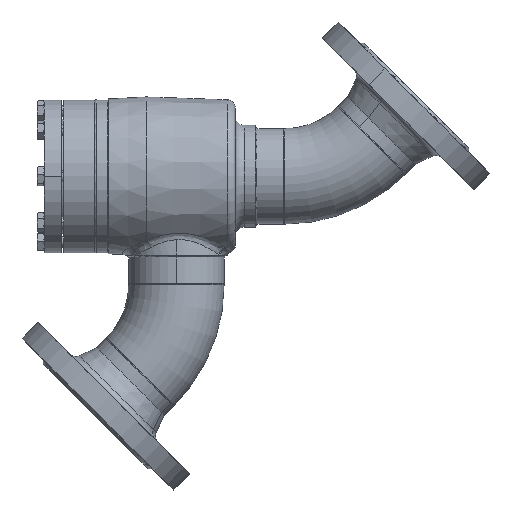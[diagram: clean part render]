
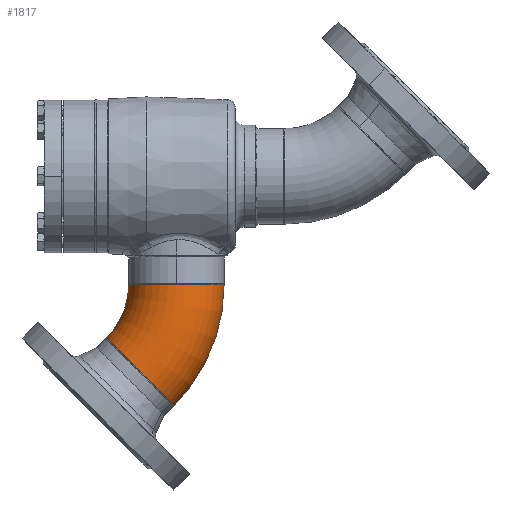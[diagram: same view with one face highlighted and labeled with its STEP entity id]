
A CAD part, left-side view. The second image highlights one B-rep face of the part: STEP entity #1817.
In plain terms, the highlighted toroidal (fillet/blend) face has major radius 114 mm and minor radius 44.45 mm.
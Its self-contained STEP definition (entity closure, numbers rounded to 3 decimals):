
#253 = VERTEX_POINT ( 'NONE', #15742 ) ;
#16729 = CIRCLE ( 'NONE', #16730, 44.45 ) ;
#16730 = AXIS2_PLACEMENT_3D ( 'NONE', #16731, #16732, #16733 ) ;
#16731 = CARTESIAN_POINT ( 'NONE',  ( 80.61, -33.39, 0. ) ) ;
#16732 = DIRECTION ( 'NONE',  ( 0.707, -0.707, 0. ) ) ;
#16733 = DIRECTION ( 'NONE',  ( 0., 0., -1. ) ) ;
#474 = VERTEX_POINT ( 'NONE', #16158 ) ;
#669 = FACE_OUTER_BOUND ( 'NONE', #2247, .T. ) ;
#675 = TOROIDAL_SURFACE ( 'NONE', #676, 114., 44.45 ) ;
#676 = AXIS2_PLACEMENT_3D ( 'NONE', #677, #678, #679 ) ;
#677 = CARTESIAN_POINT ( 'NONE',  ( 0., -114., 0. ) ) ;
#678 = DIRECTION ( 'NONE',  ( 0., 0., 1. ) ) ;
#679 = DIRECTION ( 'NONE',  ( 1., 0., 0. ) ) ;
#694 = EDGE_CURVE ( 'NONE', #474, #253, #16729, .T. ) ;
#17280 = VERTEX_POINT ( 'NONE', #15890 ) ;
#1047 = ORIENTED_EDGE ( 'NONE', *, *, #694, .F. ) ;
#17497 = EDGE_CURVE ( 'NONE', #18361, #17280, #4340, .T. ) ;
#17856 = ORIENTED_EDGE ( 'NONE', *, *, #17497, .T. ) ;
#1817 = ADVANCED_FACE ( 'NONE', ( #669 ), #675, .T. ) ;
#18361 = VERTEX_POINT ( 'NONE', #6289 ) ;
#18581 = EDGE_CURVE ( 'NONE', #474, #18361, #6626, .T. ) ;
#2247 = EDGE_LOOP ( 'NONE', ( #1047, #18944, #17856, #6765 ) ) ;
#18944 = ORIENTED_EDGE ( 'NONE', *, *, #18581, .T. ) ;
#4340 = CIRCLE ( 'NONE', #4341, 44.45 ) ;
#4341 = AXIS2_PLACEMENT_3D ( 'NONE', #4342, #4343, #4344 ) ;
#4342 = CARTESIAN_POINT ( 'NONE',  ( 0., 0., 0. ) ) ;
#4343 = DIRECTION ( 'NONE',  ( 1., 0., 0. ) ) ;
#4344 = DIRECTION ( 'NONE',  ( 0., 0., -1. ) ) ;
#6289 = CARTESIAN_POINT ( 'NONE',  ( 0., 44.45, 0. ) ) ;
#6397 = EDGE_CURVE ( 'NONE', #253, #17280, #12679, .T. ) ;
#6626 = CIRCLE ( 'NONE', #6627, 158.45 ) ;
#6627 = AXIS2_PLACEMENT_3D ( 'NONE', #6628, #6629, #6630 ) ;
#6628 = CARTESIAN_POINT ( 'NONE',  ( 0., -114., 0. ) ) ;
#6629 = DIRECTION ( 'NONE',  ( 0., 0., 1. ) ) ;
#6630 = DIRECTION ( 'NONE',  ( 1., 0., 0. ) ) ;
#6765 = ORIENTED_EDGE ( 'NONE', *, *, #6397, .F. ) ;
#12679 = CIRCLE ( 'NONE', #12680, 69.55 ) ;
#12680 = AXIS2_PLACEMENT_3D ( 'NONE', #12681, #12682, #12683 ) ;
#12681 = CARTESIAN_POINT ( 'NONE',  ( 0., -114., 0. ) ) ;
#12682 = DIRECTION ( 'NONE',  ( 0., 0., 1. ) ) ;
#12683 = DIRECTION ( 'NONE',  ( 1., 0., 0. ) ) ;
#15742 = CARTESIAN_POINT ( 'NONE',  ( 49.179, -64.821, 0. ) ) ;
#15890 = CARTESIAN_POINT ( 'NONE',  ( 0., -44.45, 0. ) ) ;
#16158 = CARTESIAN_POINT ( 'NONE',  ( 112.041, -1.959, 0. ) ) ;
